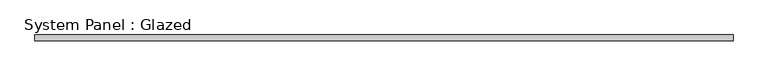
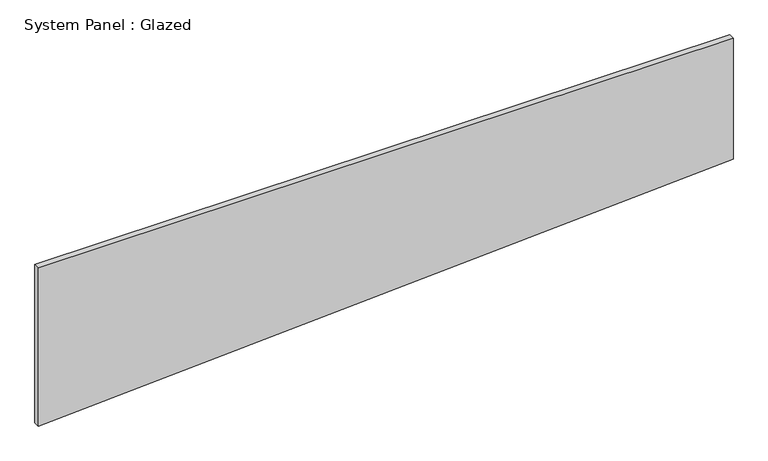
"""IFC4 building model written with IfcOpenShell, lengths in millimetres: plate geometry, System Panel : Glazed."""

from ifc_helpers import new_model, si_unit, frame, origin, place, context, project, spatial, polyline, outline, extrude, source, transform, mapped, element, save


def system_panel_glazed_01c37e40(model_context):
    return source(origin(), model_context, "Body", "SweptSolid", [
        extrude(outline(polyline([(0.0, -1504.95), (171.6786049, 1504.95), (724.6220991, 1504.95), (724.6220991, -1504.95), (0.0, -1504.95)])), frame((0.0, 19.05, 0.0), z_axis=(0.0, 1.0, 0.0), x_axis=(0.0, 0.0, 1.0)), (0.0, 0.0, 1.0), 25.4),
    ])


if __name__ == "__main__":
    model = new_model("IFC4")
    model_context = context("Model", 3, world=origin())
    ifc_project = project(units=[si_unit("LENGTHUNIT", "METRE", prefix="MILLI")], contexts=[model_context])
    site = spatial("IfcSite", under=ifc_project)
    building = spatial("IfcBuilding", under=site)
    placement = place(None, origin())
    system_panel_glazed_shape = system_panel_glazed_01c37e40(model_context)
    element("IfcPlate", 1, ObjectType="System Panel : Glazed", at=placement, inside=building, context=model_context, shape_type="MappedRepresentation", body=[
        mapped(system_panel_glazed_shape, transform((0.0, 0.0, 0.0), x_axis=(1.0, 0.0, 0.0), y_axis=(0.0, 1.0, 0.0), z_axis=(0.0, 0.0, 1.0))),
    ])
    save(model, "model.ifc")
